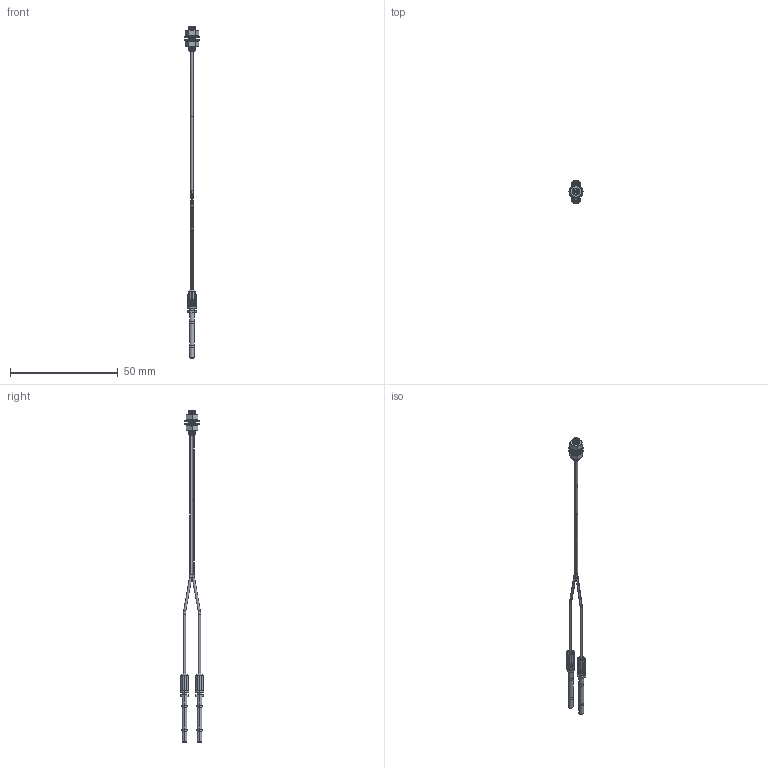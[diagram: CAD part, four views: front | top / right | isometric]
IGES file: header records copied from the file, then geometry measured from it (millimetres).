
Start section: SolidWorks IGES file using analytic representation for surfaces
Bounding box: 6.5 x 11 x 154.01 mm (x, y, z)
Surface area: 2199.1 mm2 (no closed solid volume)
Topology: 0 solids, 0 shells, 399 faces, 4524 edges, 4523 vertices
Faces by surface type: revolution 211, bspline 188
